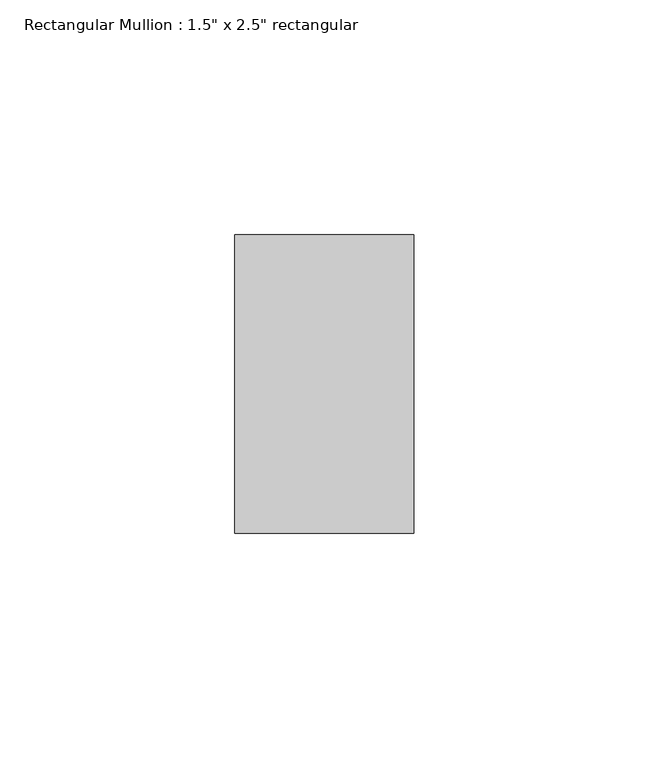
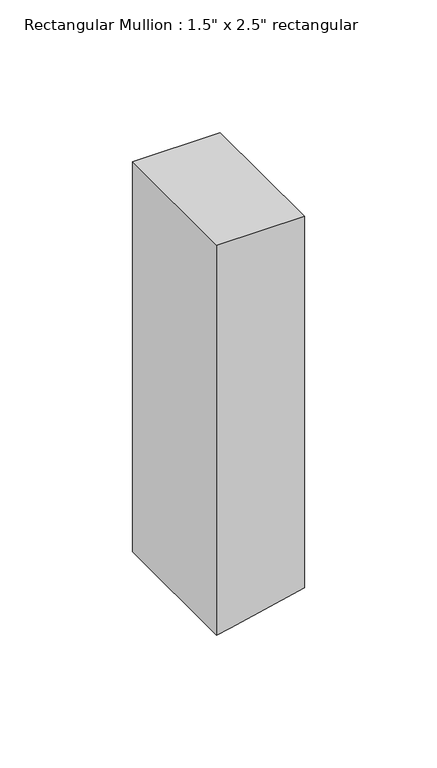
"""IFC4 building model written with IfcOpenShell, lengths in millimetres: member geometry."""

from ifc_helpers import new_model, si_unit, frame, origin, place, context, project, spatial, polyline, outline, extrude, source, transform, mapped, element, save


def member_068a0dfa(model_context):
    return source(origin(), model_context, "Body", "SweptSolid", [
        extrude(outline(polyline([(0.0, 19.05), (0.0, -19.05), (-179.3405789, -19.05), (-178.1681737, -13.2390674), (-170.9155412, 19.05), (0.0, 19.05)])), frame((0.0, -31.75, 0.0), z_axis=(0.0, 1.0, 0.0), x_axis=(0.0, 0.0, 1.0)), (0.0, 0.0, 1.0), 63.5),
    ])


if __name__ == "__main__":
    model = new_model("IFC4")
    model_context = context("Model", 3, world=origin())
    ifc_project = project(units=[si_unit("LENGTHUNIT", "METRE", prefix="MILLI")], contexts=[model_context])
    site = spatial("IfcSite", under=ifc_project)
    building = spatial("IfcBuilding", under=site)
    placement = place(None, origin())
    member_shape = member_068a0dfa(model_context)
    element("IfcMember", 1, ObjectType="Rectangular Mullion : 1.5\" x 2.5\" rectangular", at=placement, inside=building, context=model_context, shape_type="MappedRepresentation", body=[
        mapped(member_shape, transform((0.0, 0.0, 0.0), x_axis=(1.0, 0.0, 0.0), y_axis=(0.0, 1.0, 0.0), z_axis=(0.0, 0.0, 1.0))),
    ])
    save(model, "model.ifc")
